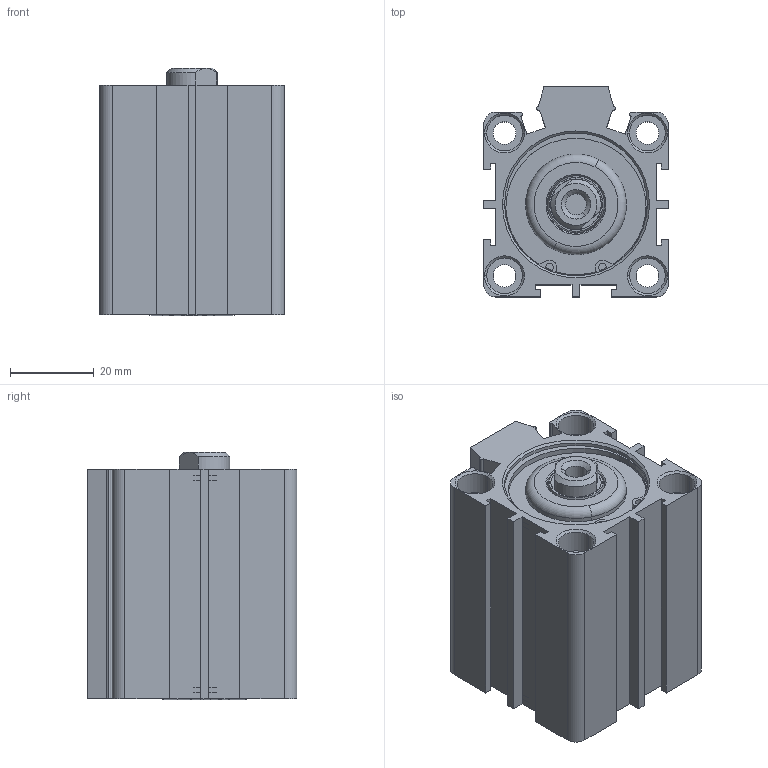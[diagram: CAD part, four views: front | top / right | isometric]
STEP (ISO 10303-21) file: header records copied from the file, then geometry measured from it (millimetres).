
FILE_DESCRIPTION (( 'STEP AP214' ), '1' );
FILE_NAME ('SDA_32_20_WEB.STEP', '2021-01-22T09:27:43', ( 'cagdas' ), ( '' ), 'SwSTEP 2.0', 'SolidWorks 2021', '' );
FILE_SCHEMA (( 'AUTOMOTIVE_DESIGN' ));
Length unit declared in the file: millimetre
Products named in the file (7): basic internal retaining ring_am_B27.7M - 3BM1-36; SDA32ARKKAPAK; KASTAS-K52-12X16_5X3_6-4_8; 20_MIL_WEB; SDA32_BORU_WEB; SDA32ONKAPAKDINCPLASTIK; SDA_32_20_WEB
Assembly tree (7 placements, depth 2):
  SDA_32_20_WEB
    SDA32_BORU_WEB
    SDA32ONKAPAKDINCPLASTIK
    KASTAS-K52-12X16_5X3_6-4_8
    SDA32ARKKAPAK
    20_MIL_WEB
    basic internal retaining ring_am_B27.7M - 3BM1-36  x2
Bounding box: 44 x 50 x 58.85 mm (x, y, z)
Volume: 61154.4 mm3; surface area: 36347.4 mm2
Topology: 7 solids, 7 shells, 467 faces, 1165 edges, 750 vertices
Faces by surface type: plane 178, cylinder 124, bspline 85, cone 76, torus 4
Entity records: 19570 total; most frequent: CARTESIAN_POINT 7109, ORIENTED_EDGE 2228, DIRECTION 1994, EDGE_CURVE 1114, VERTEX_POINT 716, AXIS2_PLACEMENT_3D 687, VECTOR 620, LINE 620
